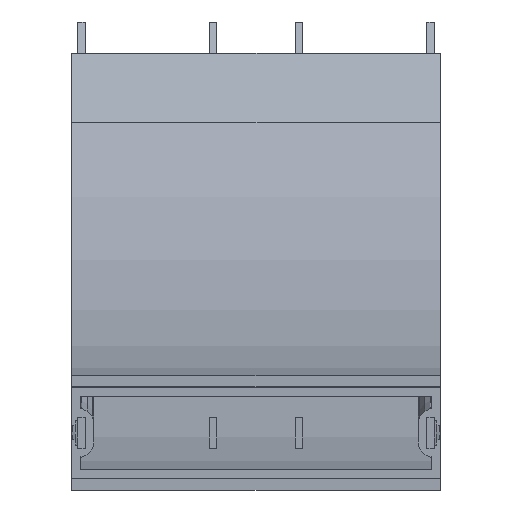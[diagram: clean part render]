
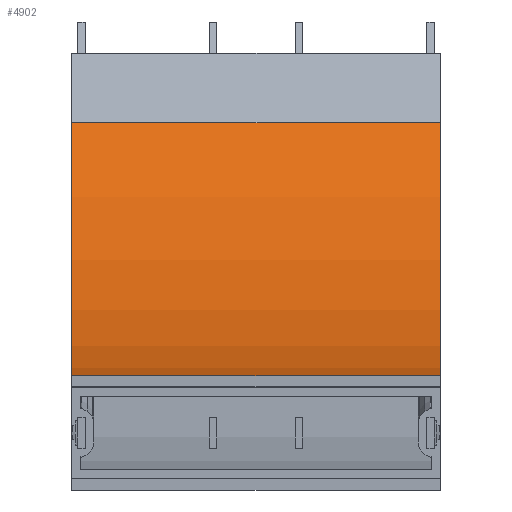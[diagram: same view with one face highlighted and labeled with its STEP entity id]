
A CAD part, front view. The second image highlights one B-rep face of the part: STEP entity #4902.
In plain terms, the highlighted cylindrical face has radius 703.5 mm (diameter 1407 mm), a partial arc.
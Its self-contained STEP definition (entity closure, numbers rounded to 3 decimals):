
#116 = AXIS2_PLACEMENT_3D ( 'NONE', #8289, #2015, #8234 ) ;
#600 = AXIS2_PLACEMENT_3D ( 'NONE', #4398, #6019, #6600 ) ;
#1020 = EDGE_CURVE ( 'NONE', #8249, #4940, #3378, .T. ) ;
#1468 = DIRECTION ( 'NONE',  ( -1., 0., 0. ) ) ;
#1667 = DIRECTION ( 'NONE',  ( 0., 0.707, -0.707 ) ) ;
#1715 = EDGE_LOOP ( 'NONE', ( #2499, #4464, #4181, #9606 ) ) ;
#2015 = DIRECTION ( 'NONE',  ( -1., 0., 0. ) ) ;
#2106 = AXIS2_PLACEMENT_3D ( 'NONE', #6220, #1468, #1667 ) ;
#2499 = ORIENTED_EDGE ( 'NONE', *, *, #9677, .F. ) ;
#2990 = EDGE_CURVE ( 'NONE', #4940, #6535, #5033, .T. ) ;
#3156 = LINE ( 'NONE', #9482, #5109 ) ;
#3378 = LINE ( 'NONE', #9613, #5711 ) ;
#3403 = FACE_OUTER_BOUND ( 'NONE', #1715, .T. ) ;
#3942 = CARTESIAN_POINT ( 'NONE',  ( 150., 577.45, 252.55 ) ) ;
#4181 = ORIENTED_EDGE ( 'NONE', *, *, #1020, .T. ) ;
#4398 = CARTESIAN_POINT ( 'NONE',  ( -150., 80., 750. ) ) ;
#4464 = ORIENTED_EDGE ( 'NONE', *, *, #8604, .F. ) ;
#4523 = VERTEX_POINT ( 'NONE', #7430 ) ;
#4752 = DIRECTION ( 'NONE',  ( -1., 0., 0. ) ) ;
#4902 = ADVANCED_FACE ( 'NONE', ( #3403 ), #9729, .F. ) ;
#4940 = VERTEX_POINT ( 'NONE', #6783 ) ;
#5033 = CIRCLE ( 'NONE', #600, 703.5 ) ;
#5107 = CARTESIAN_POINT ( 'NONE',  ( -150., 80., 46.5 ) ) ;
#5109 = VECTOR ( 'NONE', #4752, 1000. ) ;
#5110 = CIRCLE ( 'NONE', #2106, 703.5 ) ;
#5711 = VECTOR ( 'NONE', #8005, 1000. ) ;
#6019 = DIRECTION ( 'NONE',  ( -1., 0., 0. ) ) ;
#6220 = CARTESIAN_POINT ( 'NONE',  ( 150., 80., 750. ) ) ;
#6535 = VERTEX_POINT ( 'NONE', #5107 ) ;
#6600 = DIRECTION ( 'NONE',  ( 0., 0.707, -0.707 ) ) ;
#6783 = CARTESIAN_POINT ( 'NONE',  ( -150., 577.45, 252.55 ) ) ;
#7430 = CARTESIAN_POINT ( 'NONE',  ( 150., 80., 46.5 ) ) ;
#8005 = DIRECTION ( 'NONE',  ( -1., 0., 0. ) ) ;
#8234 = DIRECTION ( 'NONE',  ( 0., 0., 1. ) ) ;
#8249 = VERTEX_POINT ( 'NONE', #3942 ) ;
#8289 = CARTESIAN_POINT ( 'NONE',  ( 0., 80., 750. ) ) ;
#8604 = EDGE_CURVE ( 'NONE', #8249, #4523, #5110, .T. ) ;
#9482 = CARTESIAN_POINT ( 'NONE',  ( -150., 80., 46.5 ) ) ;
#9606 = ORIENTED_EDGE ( 'NONE', *, *, #2990, .T. ) ;
#9613 = CARTESIAN_POINT ( 'NONE',  ( -150., 577.45, 252.55 ) ) ;
#9677 = EDGE_CURVE ( 'NONE', #4523, #6535, #3156, .T. ) ;
#9729 = CYLINDRICAL_SURFACE ( 'NONE', #116, 703.5 ) ;
